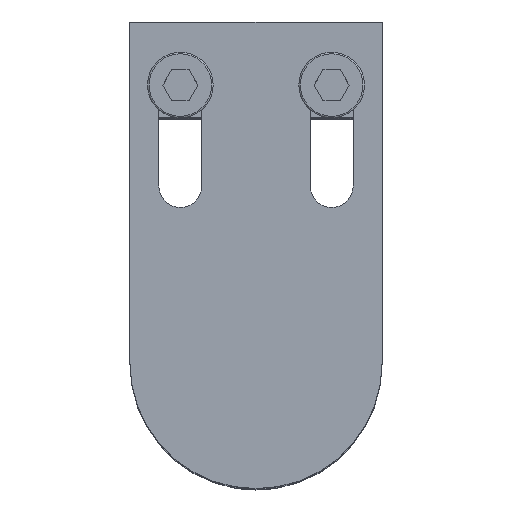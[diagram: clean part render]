
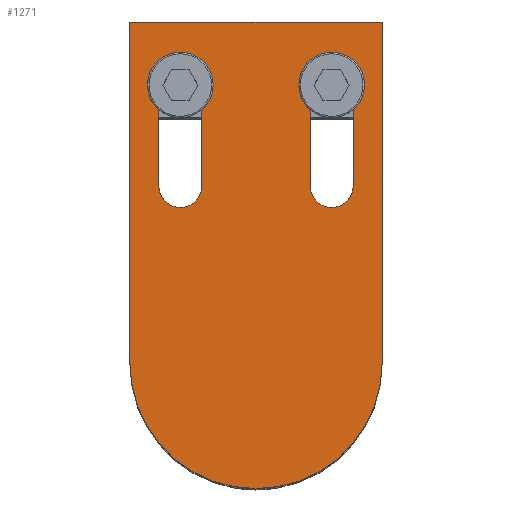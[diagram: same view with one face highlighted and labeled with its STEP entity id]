
A CAD part, top view. The second image highlights one B-rep face of the part: STEP entity #1271.
In plain terms, the highlighted planar face has unit normal (0, 0, 1) as drawn and (0, 0, -1) by its records, which use the part's own axes.
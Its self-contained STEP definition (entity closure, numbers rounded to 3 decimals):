
#39 = VECTOR ( 'NONE', #707, 1000. ) ;
#68 = ORIENTED_EDGE ( 'NONE', *, *, #4973, .T. ) ;
#99 = VECTOR ( 'NONE', #986, 1000. ) ;
#115 = EDGE_CURVE ( 'NONE', #5124, #150, #246, .T. ) ;
#150 = VERTEX_POINT ( 'NONE', #1113 ) ;
#224 = CARTESIAN_POINT ( 'NONE',  ( 25., 67.5, -6. ) ) ;
#226 = VECTOR ( 'NONE', #2665, 1000. ) ;
#246 = LINE ( 'NONE', #3164, #3279 ) ;
#303 = VERTEX_POINT ( 'NONE', #4416 ) ;
#327 = CARTESIAN_POINT ( 'NONE',  ( 25., 0., -6. ) ) ;
#338 = FACE_BOUND ( 'NONE', #3593, .T. ) ;
#432 = DIRECTION ( 'NONE',  ( 0., 0., 1. ) ) ;
#449 = AXIS2_PLACEMENT_3D ( 'NONE', #1510, #1455, #3921 ) ;
#450 = ORIENTED_EDGE ( 'NONE', *, *, #4957, .F. ) ;
#502 = ORIENTED_EDGE ( 'NONE', *, *, #1674, .F. ) ;
#596 = CARTESIAN_POINT ( 'NONE',  ( -10.75, 35., -6. ) ) ;
#610 = DIRECTION ( 'NONE',  ( 0., -1., 0. ) ) ;
#670 = VERTEX_POINT ( 'NONE', #327 ) ;
#707 = DIRECTION ( 'NONE',  ( 0., -1., 0. ) ) ;
#710 = VERTEX_POINT ( 'NONE', #1117 ) ;
#795 = CIRCLE ( 'NONE', #834, 4.25 ) ;
#816 = ORIENTED_EDGE ( 'NONE', *, *, #2846, .T. ) ;
#834 = AXIS2_PLACEMENT_3D ( 'NONE', #3210, #432, #1580 ) ;
#871 = DIRECTION ( 'NONE',  ( 1., 0., 0. ) ) ;
#986 = DIRECTION ( 'NONE',  ( 0., 1., 0. ) ) ;
#1026 = FACE_OUTER_BOUND ( 'NONE', #4536, .T. ) ;
#1113 = CARTESIAN_POINT ( 'NONE',  ( 19.25, 55., -6. ) ) ;
#1117 = CARTESIAN_POINT ( 'NONE',  ( -19.25, 35., -6. ) ) ;
#1162 = LINE ( 'NONE', #596, #2086 ) ;
#1242 = VERTEX_POINT ( 'NONE', #1862 ) ;
#1254 = CARTESIAN_POINT ( 'NONE',  ( 0., 0., -6. ) ) ;
#1271 = ADVANCED_FACE ( 'NONE', ( #338, #5077, #1026 ), #2705, .F. ) ;
#1298 = CARTESIAN_POINT ( 'NONE',  ( 25., 67.5, -6. ) ) ;
#1343 = LINE ( 'NONE', #3376, #99 ) ;
#1369 = ORIENTED_EDGE ( 'NONE', *, *, #2879, .T. ) ;
#1370 = ORIENTED_EDGE ( 'NONE', *, *, #4635, .T. ) ;
#1455 = DIRECTION ( 'NONE',  ( 0., 0., 1. ) ) ;
#1510 = CARTESIAN_POINT ( 'NONE',  ( -15., 35., -6. ) ) ;
#1580 = DIRECTION ( 'NONE',  ( 1., 0., 0. ) ) ;
#1594 = LINE ( 'NONE', #224, #226 ) ;
#1674 = EDGE_CURVE ( 'NONE', #4686, #670, #4508, .T. ) ;
#1701 = VERTEX_POINT ( 'NONE', #1298 ) ;
#1780 = EDGE_LOOP ( 'NONE', ( #2253, #1370, #68, #3918 ) ) ;
#1810 = DIRECTION ( 'NONE',  ( -1., 0., 0. ) ) ;
#1862 = CARTESIAN_POINT ( 'NONE',  ( -19.25, 55., -6. ) ) ;
#1882 = DIRECTION ( 'NONE',  ( 0., -1., 0. ) ) ;
#1917 = VERTEX_POINT ( 'NONE', #2204 ) ;
#1926 = CARTESIAN_POINT ( 'NONE',  ( 15., 35., -6. ) ) ;
#2021 = EDGE_CURVE ( 'NONE', #3097, #5124, #4636, .T. ) ;
#2086 = VECTOR ( 'NONE', #2623, 1000. ) ;
#2142 = EDGE_CURVE ( 'NONE', #1917, #1242, #795, .T. ) ;
#2182 = DIRECTION ( 'NONE',  ( 0., 0., 1. ) ) ;
#2204 = CARTESIAN_POINT ( 'NONE',  ( -10.75, 55., -6. ) ) ;
#2253 = ORIENTED_EDGE ( 'NONE', *, *, #3728, .T. ) ;
#2355 = AXIS2_PLACEMENT_3D ( 'NONE', #1254, #4852, #871 ) ;
#2447 = LINE ( 'NONE', #5062, #4434 ) ;
#2623 = DIRECTION ( 'NONE',  ( 0., 1., 0. ) ) ;
#2659 = LINE ( 'NONE', #3426, #4959 ) ;
#2665 = DIRECTION ( 'NONE',  ( -1., 0., 0. ) ) ;
#2680 = ORIENTED_EDGE ( 'NONE', *, *, #4517, .F. ) ;
#2685 = ORIENTED_EDGE ( 'NONE', *, *, #115, .T. ) ;
#2705 = PLANE ( 'NONE',  #4280 ) ;
#2820 = EDGE_CURVE ( 'NONE', #1701, #4546, #1594, .T. ) ;
#2846 = EDGE_CURVE ( 'NONE', #303, #3097, #2659, .T. ) ;
#2879 = EDGE_CURVE ( 'NONE', #150, #303, #5026, .T. ) ;
#2989 = ORIENTED_EDGE ( 'NONE', *, *, #2820, .F. ) ;
#3011 = CARTESIAN_POINT ( 'NONE',  ( 15., 55., -6. ) ) ;
#3017 = CARTESIAN_POINT ( 'NONE',  ( -25., 67.5, -6. ) ) ;
#3097 = VERTEX_POINT ( 'NONE', #4277 ) ;
#3164 = CARTESIAN_POINT ( 'NONE',  ( 19.25, 35., -6. ) ) ;
#3210 = CARTESIAN_POINT ( 'NONE',  ( -15., 55., -6. ) ) ;
#3279 = VECTOR ( 'NONE', #4288, 1000. ) ;
#3376 = CARTESIAN_POINT ( 'NONE',  ( 25., 0., -6. ) ) ;
#3426 = CARTESIAN_POINT ( 'NONE',  ( 10.75, 35., -6. ) ) ;
#3456 = DIRECTION ( 'NONE',  ( 0., 0., 1. ) ) ;
#3469 = DIRECTION ( 'NONE',  ( 0., 0., 1. ) ) ;
#3593 = EDGE_LOOP ( 'NONE', ( #816, #4351, #2685, #1369 ) ) ;
#3728 = EDGE_CURVE ( 'NONE', #1242, #710, #2447, .T. ) ;
#3904 = AXIS2_PLACEMENT_3D ( 'NONE', #3011, #2182, #1810 ) ;
#3918 = ORIENTED_EDGE ( 'NONE', *, *, #2142, .T. ) ;
#3921 = DIRECTION ( 'NONE',  ( 1., 0., 0. ) ) ;
#4139 = CARTESIAN_POINT ( 'NONE',  ( -10.75, 35., -6. ) ) ;
#4224 = CARTESIAN_POINT ( 'NONE',  ( -25., 0., -6. ) ) ;
#4277 = CARTESIAN_POINT ( 'NONE',  ( 10.75, 35., -6. ) ) ;
#4280 = AXIS2_PLACEMENT_3D ( 'NONE', #5061, #3456, #5099 ) ;
#4288 = DIRECTION ( 'NONE',  ( 0., 1., 0. ) ) ;
#4327 = CIRCLE ( 'NONE', #449, 4.25 ) ;
#4348 = CARTESIAN_POINT ( 'NONE',  ( 19.25, 35., -6. ) ) ;
#4351 = ORIENTED_EDGE ( 'NONE', *, *, #2021, .T. ) ;
#4365 = VERTEX_POINT ( 'NONE', #4139 ) ;
#4416 = CARTESIAN_POINT ( 'NONE',  ( 10.75, 55., -6. ) ) ;
#4434 = VECTOR ( 'NONE', #1882, 1000. ) ;
#4508 = CIRCLE ( 'NONE', #2355, 25. ) ;
#4517 = EDGE_CURVE ( 'NONE', #4546, #4686, #4634, .T. ) ;
#4536 = EDGE_LOOP ( 'NONE', ( #502, #2680, #2989, #450 ) ) ;
#4546 = VERTEX_POINT ( 'NONE', #3017 ) ;
#4634 = LINE ( 'NONE', #4224, #39 ) ;
#4635 = EDGE_CURVE ( 'NONE', #710, #4365, #4327, .T. ) ;
#4636 = CIRCLE ( 'NONE', #5017, 4.25 ) ;
#4662 = DIRECTION ( 'NONE',  ( -1., 0., 0. ) ) ;
#4686 = VERTEX_POINT ( 'NONE', #5144 ) ;
#4852 = DIRECTION ( 'NONE',  ( 0., 0., 1. ) ) ;
#4957 = EDGE_CURVE ( 'NONE', #670, #1701, #1343, .T. ) ;
#4959 = VECTOR ( 'NONE', #610, 1000. ) ;
#4973 = EDGE_CURVE ( 'NONE', #4365, #1917, #1162, .T. ) ;
#5017 = AXIS2_PLACEMENT_3D ( 'NONE', #1926, #3469, #4662 ) ;
#5026 = CIRCLE ( 'NONE', #3904, 4.25 ) ;
#5061 = CARTESIAN_POINT ( 'NONE',  ( 0., 0., -6. ) ) ;
#5062 = CARTESIAN_POINT ( 'NONE',  ( -19.25, 35., -6. ) ) ;
#5077 = FACE_BOUND ( 'NONE', #1780, .T. ) ;
#5099 = DIRECTION ( 'NONE',  ( 1., 0., 0. ) ) ;
#5124 = VERTEX_POINT ( 'NONE', #4348 ) ;
#5144 = CARTESIAN_POINT ( 'NONE',  ( -25., 0., -6. ) ) ;
